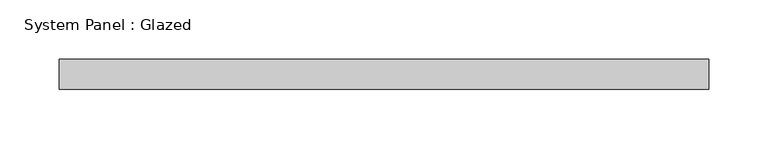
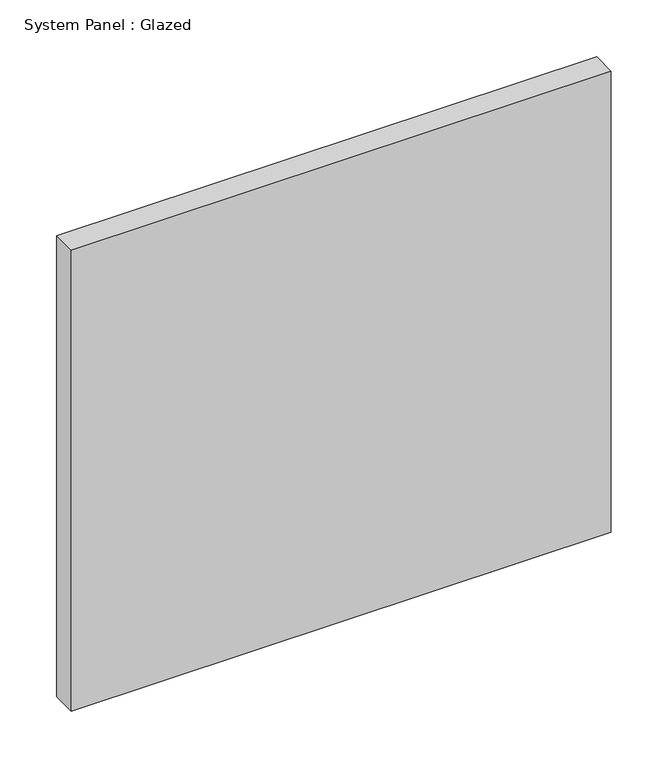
"""IFC4 building model written with IfcOpenShell, lengths in millimetres: plate geometry, System Panel : Glazed."""

from ifc_helpers import new_model, si_unit, origin, origin_with_axes, place, context, project, spatial, polyline, outline, extrude, source, transform, mapped, element, save


def system_panel_glazed_cd28395c(model_context):
    return source(origin(), model_context, "Body", "SweptSolid", [
        extrude(outline(polyline([(274.4249409, -12.7), (-274.4249409, -12.7), (-274.4249409, 12.7), (274.4249409, 12.7), (274.4249409, -12.7)])), origin_with_axes(), (0.0, 0.0, 1.0), 495.3),
    ])


if __name__ == "__main__":
    model = new_model("IFC4")
    model_context = context("Model", 3, world=origin())
    ifc_project = project(units=[si_unit("LENGTHUNIT", "METRE", prefix="MILLI")], contexts=[model_context])
    site = spatial("IfcSite", under=ifc_project)
    building = spatial("IfcBuilding", under=site)
    placement = place(None, origin())
    system_panel_glazed_shape = system_panel_glazed_cd28395c(model_context)
    element("IfcPlate", 1, ObjectType="System Panel : Glazed", at=placement, inside=building, context=model_context, shape_type="MappedRepresentation", body=[
        mapped(system_panel_glazed_shape, transform((0.0, 0.0, 0.0), x_axis=(1.0, 0.0, 0.0), y_axis=(0.0, 1.0, 0.0), z_axis=(0.0, 0.0, 1.0))),
    ])
    save(model, "model.ifc")
